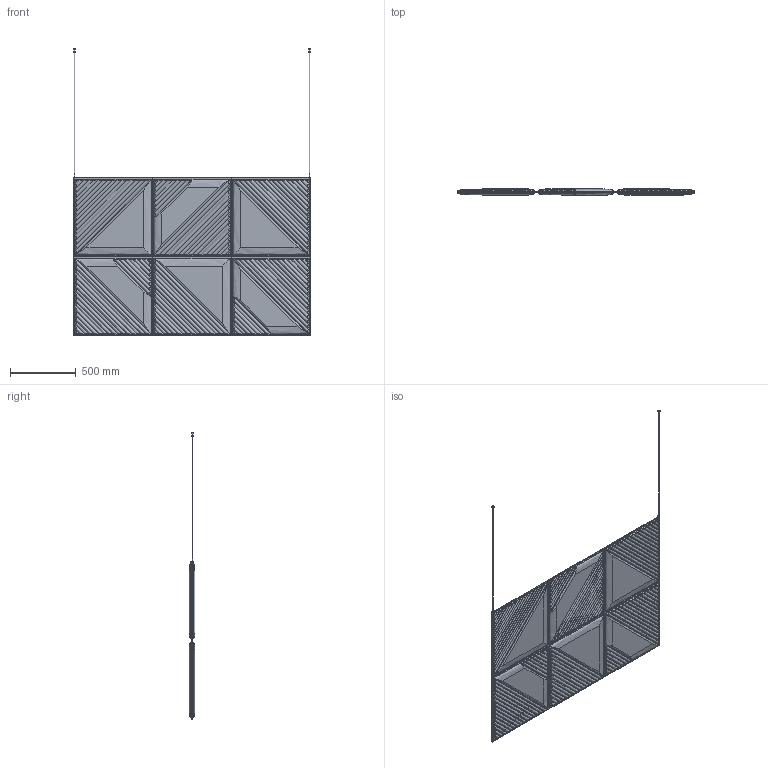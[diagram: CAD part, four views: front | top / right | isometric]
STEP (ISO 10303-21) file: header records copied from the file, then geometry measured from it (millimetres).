
FILE_DESCRIPTION(/* description */ (''),/* implementation_level */ '2;1');
FILE_NAME(/* name */ 'B6',/* time_stamp */ '2022-12-22T15:39:09+01:00',/* author */ (''),/* organization */ (''),/* preprocessor_version */ 'ST-DEVELOPER v16.5',/* originating_system */ 'Rhino 7.22',/* authorisation */ '');
FILE_SCHEMA (('CONFIG_CONTROL_DESIGN'));
Length unit declared in the file: millimetre
Products named in the file (1): Document
Bounding box: 1805.63 x 45 x 2184.86 mm (x, y, z)
Volume: 63371147.1 mm3; surface area: 13549236.6 mm2
Topology: 11 solids, 11 shells, 911 faces, 2457 edges, 1576 vertices
Faces by surface type: cylinder 404, bspline 386, plane 121
Entity records: 50655 total; most frequent: CARTESIAN_POINT 35177, ORIENTED_EDGE 4914, EDGE_CURVE 2457, B_SPLINE_CURVE_WITH_KNOTS 1757, VERTEX_POINT 1576, EDGE_LOOP 937, ADVANCED_FACE 911, FACE_OUTER_BOUND 911
